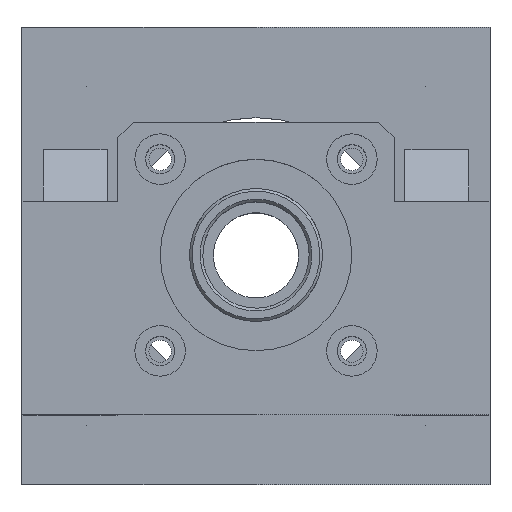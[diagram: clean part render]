
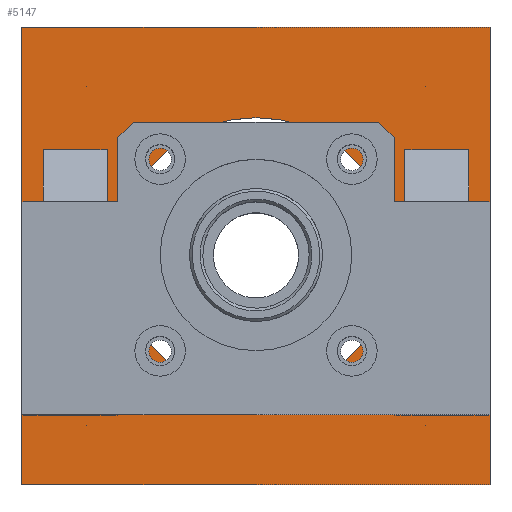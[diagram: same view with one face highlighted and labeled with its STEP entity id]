
A CAD part, top view. The second image highlights one B-rep face of the part: STEP entity #5147.
In plain terms, the highlighted planar face has unit normal (0, 0, 1).
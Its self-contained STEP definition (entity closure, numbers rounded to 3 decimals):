
#2908=DIRECTION('',(-1.,0.,0.));
#2909=VECTOR('',#2908,88.);
#2910=CARTESIAN_POINT('',(44.,43.,105.));
#2911=LINE('',#2910,#2909);
#2912=DIRECTION('',(0.,1.,0.));
#2913=VECTOR('',#2912,86.);
#2914=CARTESIAN_POINT('',(44.,-43.,105.));
#2915=LINE('',#2914,#2913);
#2916=DIRECTION('',(1.,0.,0.));
#2917=VECTOR('',#2916,88.);
#2918=CARTESIAN_POINT('',(-44.,-43.,105.));
#2919=LINE('',#2918,#2917);
#2920=DIRECTION('',(0.,-1.,0.));
#2921=VECTOR('',#2920,86.);
#2922=CARTESIAN_POINT('',(-44.,43.,105.));
#2923=LINE('',#2922,#2921);
#2924=DIRECTION('',(0.,1.,0.));
#2925=VECTOR('',#2924,50.);
#2926=CARTESIAN_POINT('',(28.,-30.,105.));
#2927=LINE('',#2926,#2925);
#2928=DIRECTION('',(-1.,0.,0.));
#2929=VECTOR('',#2928,12.);
#2930=CARTESIAN_POINT('',(40.,-30.,105.));
#2931=LINE('',#2930,#2929);
#2932=DIRECTION('',(0.,-1.,0.));
#2933=VECTOR('',#2932,50.);
#2934=CARTESIAN_POINT('',(40.,20.,105.));
#2935=LINE('',#2934,#2933);
#2936=DIRECTION('',(1.,0.,0.));
#2937=VECTOR('',#2936,12.);
#2938=CARTESIAN_POINT('',(28.,20.,105.));
#2939=LINE('',#2938,#2937);
#2940=CARTESIAN_POINT('',(0.,0.,105.));
#2941=DIRECTION('',(0.,0.,-1.));
#2942=DIRECTION('',(-1.,0.,0.));
#2943=AXIS2_PLACEMENT_3D('',#2940,#2941,#2942);
#2945=CARTESIAN_POINT('',(0.,0.,105.));
#2946=DIRECTION('',(0.,0.,-1.));
#2947=DIRECTION('',(1.,0.,0.));
#2948=AXIS2_PLACEMENT_3D('',#2945,#2946,#2947);
#2950=DIRECTION('',(0.,1.,0.));
#2951=VECTOR('',#2950,50.);
#2952=CARTESIAN_POINT('',(-40.,-30.,105.));
#2953=LINE('',#2952,#2951);
#2954=DIRECTION('',(-1.,0.,0.));
#2955=VECTOR('',#2954,12.);
#2956=CARTESIAN_POINT('',(-28.,-30.,105.));
#2957=LINE('',#2956,#2955);
#2958=DIRECTION('',(0.,-1.,0.));
#2959=VECTOR('',#2958,50.);
#2960=CARTESIAN_POINT('',(-28.,20.,105.));
#2961=LINE('',#2960,#2959);
#3252=DIRECTION('',(-1.,0.,0.));
#3253=VECTOR('',#3252,12.);
#3254=CARTESIAN_POINT('',(-28.,20.,105.));
#3255=LINE('',#3254,#3253);
#3501=CARTESIAN_POINT('',(44.,43.,105.));
#3502=CARTESIAN_POINT('',(-44.,43.,105.));
#3503=VERTEX_POINT('',#3501);
#3504=VERTEX_POINT('',#3502);
#3505=CARTESIAN_POINT('',(-44.,-43.,105.));
#3506=VERTEX_POINT('',#3505);
#3507=CARTESIAN_POINT('',(44.,-43.,105.));
#3508=VERTEX_POINT('',#3507);
#3509=CARTESIAN_POINT('',(28.,-30.,105.));
#3510=CARTESIAN_POINT('',(28.,20.,105.));
#3511=VERTEX_POINT('',#3509);
#3512=VERTEX_POINT('',#3510);
#3513=CARTESIAN_POINT('',(40.,20.,105.));
#3514=VERTEX_POINT('',#3513);
#3515=CARTESIAN_POINT('',(40.,-30.,105.));
#3516=VERTEX_POINT('',#3515);
#3517=CARTESIAN_POINT('',(-28.,20.,105.));
#3518=CARTESIAN_POINT('',(-40.,20.,105.));
#3519=VERTEX_POINT('',#3517);
#3520=VERTEX_POINT('',#3518);
#3521=CARTESIAN_POINT('',(-28.,-30.,105.));
#3522=VERTEX_POINT('',#3521);
#3523=CARTESIAN_POINT('',(-40.,-30.,105.));
#3524=VERTEX_POINT('',#3523);
#3733=CARTESIAN_POINT('',(-26.,0.,105.));
#3735=VERTEX_POINT('',#3733);
#3737=CARTESIAN_POINT('',(26.,0.,105.));
#3739=VERTEX_POINT('',#3737);
#5109=CARTESIAN_POINT('',(0.,0.,105.));
#5110=DIRECTION('',(0.,0.,-1.));
#5111=DIRECTION('',(-1.,0.,0.));
#5112=AXIS2_PLACEMENT_3D('',#5109,#5110,#5111);
#5113=PLANE('',#5112);
#5115=ORIENTED_EDGE('',*,*,#5114,.F.);
#5117=ORIENTED_EDGE('',*,*,#5116,.F.);
#5119=ORIENTED_EDGE('',*,*,#5118,.F.);
#5121=ORIENTED_EDGE('',*,*,#5120,.F.);
#5122=EDGE_LOOP('',(#5115,#5117,#5119,#5121));
#5123=FACE_OUTER_BOUND('',#5122,.F.);
#5125=ORIENTED_EDGE('',*,*,#5124,.F.);
#5126=ORIENTED_EDGE('',*,*,#4019,.F.);
#5128=ORIENTED_EDGE('',*,*,#5127,.F.);
#5130=ORIENTED_EDGE('',*,*,#5129,.F.);
#5131=EDGE_LOOP('',(#5125,#5126,#5128,#5130));
#5132=FACE_BOUND('',#5131,.F.);
#5134=ORIENTED_EDGE('',*,*,#5133,.F.);
#5136=ORIENTED_EDGE('',*,*,#5135,.F.);
#5137=EDGE_LOOP('',(#5134,#5136));
#5138=FACE_BOUND('',#5137,.F.);
#5140=ORIENTED_EDGE('',*,*,#5139,.T.);
#5141=ORIENTED_EDGE('',*,*,#5101,.F.);
#5142=ORIENTED_EDGE('',*,*,#4057,.F.);
#5144=ORIENTED_EDGE('',*,*,#5143,.F.);
#5145=EDGE_LOOP('',(#5140,#5141,#5142,#5144));
#5146=FACE_BOUND('',#5145,.F.);
#2944=CIRCLE('',#2943,26.);
#2949=CIRCLE('',#2948,26.);
#4019=EDGE_CURVE('',#3516,#3511,#2931,.T.);
#4057=EDGE_CURVE('',#3522,#3524,#2957,.T.);
#5101=EDGE_CURVE('',#3524,#3520,#2953,.T.);
#5114=EDGE_CURVE('',#3503,#3504,#2911,.T.);
#5116=EDGE_CURVE('',#3508,#3503,#2915,.T.);
#5118=EDGE_CURVE('',#3506,#3508,#2919,.T.);
#5120=EDGE_CURVE('',#3504,#3506,#2923,.T.);
#5124=EDGE_CURVE('',#3511,#3512,#2927,.T.);
#5127=EDGE_CURVE('',#3514,#3516,#2935,.T.);
#5129=EDGE_CURVE('',#3512,#3514,#2939,.T.);
#5133=EDGE_CURVE('',#3735,#3739,#2944,.T.);
#5135=EDGE_CURVE('',#3739,#3735,#2949,.T.);
#5139=EDGE_CURVE('',#3519,#3520,#3255,.T.);
#5143=EDGE_CURVE('',#3519,#3522,#2961,.T.);
#5147=ADVANCED_FACE('',(#5123,#5132,#5138,#5146),#5113,.F.);
